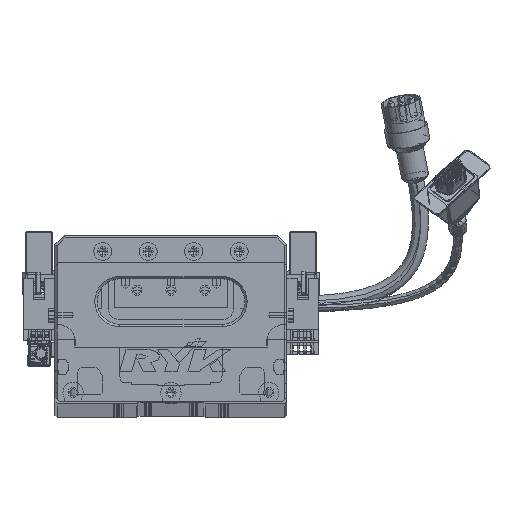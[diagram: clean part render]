
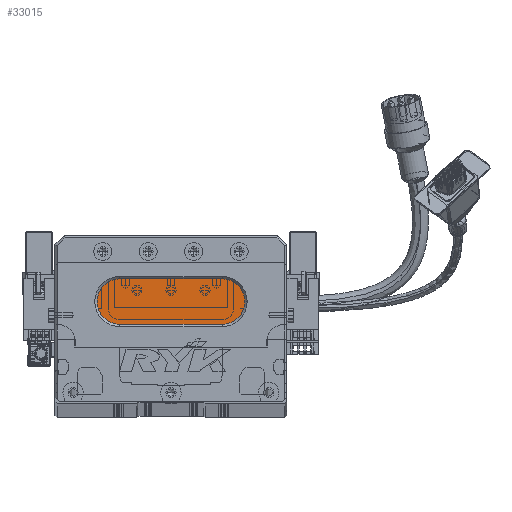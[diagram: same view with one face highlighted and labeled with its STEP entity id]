
A CAD part, top view. The second image highlights one B-rep face of the part: STEP entity #33015.
In plain terms, the highlighted planar face has unit normal (0, 0, 1) as drawn and (0, 0, -1) by its records, which use the part's own axes.
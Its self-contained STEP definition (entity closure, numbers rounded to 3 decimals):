
#3681 = LINE ( 'NONE', #37296, #59585 ) ;
#4015 = DIRECTION ( 'NONE',  ( -1., 0., 0. ) ) ;
#6777 = CIRCLE ( 'NONE', #93302, 10. ) ;
#8776 = ORIENTED_EDGE ( 'NONE', *, *, #45458, .T. ) ;
#9062 = CARTESIAN_POINT ( 'NONE',  ( 73.5, 34., 13. ) ) ;
#13223 = VERTEX_POINT ( 'NONE', #33574 ) ;
#14587 = DIRECTION ( 'NONE',  ( -1., 0., 0. ) ) ;
#17074 = CIRCLE ( 'NONE', #17129, 10. ) ;
#17129 = AXIS2_PLACEMENT_3D ( 'NONE', #36529, #95105, #65792 ) ;
#17923 = ORIENTED_EDGE ( 'NONE', *, *, #22671, .T. ) ;
#20163 = CARTESIAN_POINT ( 'NONE',  ( 73.5, 34., 13. ) ) ;
#22671 = EDGE_CURVE ( 'NONE', #48154, #58930, #3681, .T. ) ;
#23552 = CARTESIAN_POINT ( 'NONE',  ( 18.5, 44., 13. ) ) ;
#28701 = CARTESIAN_POINT ( 'NONE',  ( 28.5, 44., 13. ) ) ;
#31565 = DIRECTION ( 'NONE',  ( -1., 0., 0. ) ) ;
#33015 = ADVANCED_FACE ( 'NONE', ( #43128 ), #36442, .T. ) ;
#33574 = CARTESIAN_POINT ( 'NONE',  ( 28.5, 34., 13. ) ) ;
#36442 = PLANE ( 'NONE',  #45029 ) ;
#36529 = CARTESIAN_POINT ( 'NONE',  ( 73.5, 44., 13. ) ) ;
#37296 = CARTESIAN_POINT ( 'NONE',  ( 73.5, 54., 13. ) ) ;
#40576 = ORIENTED_EDGE ( 'NONE', *, *, #44493, .T. ) ;
#41193 = CARTESIAN_POINT ( 'NONE',  ( 28.5, 44., 13. ) ) ;
#42339 = EDGE_LOOP ( 'NONE', ( #40576, #86784, #8776, #52333, #17923 ) ) ;
#43128 = FACE_OUTER_BOUND ( 'NONE', #42339, .T. ) ;
#43357 = CARTESIAN_POINT ( 'NONE',  ( 28.5, 54., 13. ) ) ;
#43363 = DIRECTION ( 'NONE',  ( -1., 0., 0. ) ) ;
#43893 = CARTESIAN_POINT ( 'NONE',  ( 73.5, 44., 13. ) ) ;
#44493 = EDGE_CURVE ( 'NONE', #58930, #67633, #17074, .T. ) ;
#45029 = AXIS2_PLACEMENT_3D ( 'NONE', #43893, #59159, #14587 ) ;
#45458 = EDGE_CURVE ( 'NONE', #13223, #59428, #56231, .T. ) ;
#48154 = VERTEX_POINT ( 'NONE', #43357 ) ;
#51689 = VECTOR ( 'NONE', #31565, 1000. ) ;
#52333 = ORIENTED_EDGE ( 'NONE', *, *, #89651, .T. ) ;
#56231 = CIRCLE ( 'NONE', #84556, 10. ) ;
#58930 = VERTEX_POINT ( 'NONE', #68264 ) ;
#59159 = DIRECTION ( 'NONE',  ( 0., 0., -1. ) ) ;
#59428 = VERTEX_POINT ( 'NONE', #23552 ) ;
#59585 = VECTOR ( 'NONE', #66241, 1000. ) ;
#64670 = EDGE_CURVE ( 'NONE', #67633, #13223, #76115, .T. ) ;
#64868 = DIRECTION ( 'NONE',  ( 0., 0., -1. ) ) ;
#65792 = DIRECTION ( 'NONE',  ( -1., 0., 0. ) ) ;
#66241 = DIRECTION ( 'NONE',  ( 1., 0., 0. ) ) ;
#67633 = VERTEX_POINT ( 'NONE', #20163 ) ;
#68264 = CARTESIAN_POINT ( 'NONE',  ( 73.5, 54., 13. ) ) ;
#76115 = LINE ( 'NONE', #9062, #51689 ) ;
#84556 = AXIS2_PLACEMENT_3D ( 'NONE', #41193, #93262, #4015 ) ;
#86784 = ORIENTED_EDGE ( 'NONE', *, *, #64670, .T. ) ;
#89651 = EDGE_CURVE ( 'NONE', #59428, #48154, #6777, .T. ) ;
#93262 = DIRECTION ( 'NONE',  ( 0., 0., -1. ) ) ;
#93302 = AXIS2_PLACEMENT_3D ( 'NONE', #28701, #64868, #43363 ) ;
#95105 = DIRECTION ( 'NONE',  ( 0., 0., -1. ) ) ;
